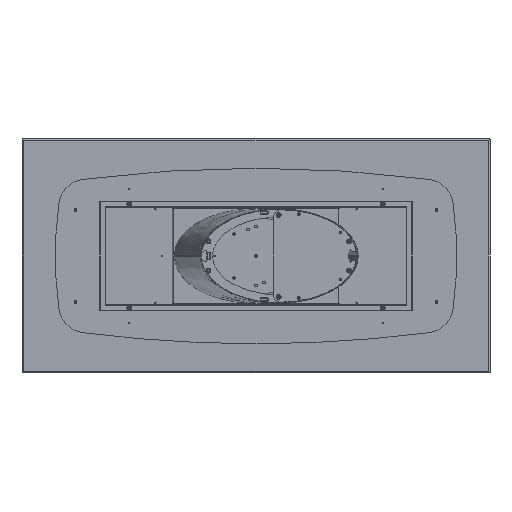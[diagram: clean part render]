
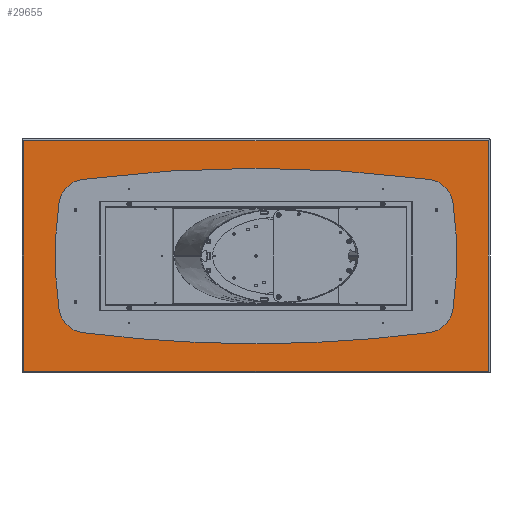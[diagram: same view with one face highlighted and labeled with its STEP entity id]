
A CAD part, front view. The second image highlights one B-rep face of the part: STEP entity #29655.
In plain terms, the highlighted planar face has unit normal (0, -1, 0).
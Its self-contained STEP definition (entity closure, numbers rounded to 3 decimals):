
#25 = EDGE_LOOP ( 'NONE', ( #11678, #25176, #18750, #23318 ) ) ;
#199 = CARTESIAN_POINT ( 'NONE',  ( -925., 0., 232.5 ) ) ;
#242 = VERTEX_POINT ( 'NONE', #10535 ) ;
#508 = CARTESIAN_POINT ( 'NONE',  ( 1190., 0., 0. ) ) ;
#1110 = DIRECTION ( 'NONE',  ( 0., 0., 1. ) ) ;
#1117 = VERTEX_POINT ( 'NONE', #24040 ) ;
#1432 = DIRECTION ( 'NONE',  ( 0., 0., -1. ) ) ;
#1446 = VERTEX_POINT ( 'NONE', #22483 ) ;
#2449 = VECTOR ( 'NONE', #9295, 1000. ) ;
#2654 = CARTESIAN_POINT ( 'NONE',  ( 925., 0., 235. ) ) ;
#2992 = DIRECTION ( 'NONE',  ( -1., 0., 0. ) ) ;
#3462 = PLANE ( 'NONE',  #23493 ) ;
#3490 = EDGE_CURVE ( 'NONE', #6345, #4444, #23983, .T. ) ;
#3587 = CIRCLE ( 'NONE', #12587, 2.5 ) ;
#3775 = DIRECTION ( 'NONE',  ( 0., -1., 0. ) ) ;
#3901 = CARTESIAN_POINT ( 'NONE',  ( -925., 0., 235. ) ) ;
#4150 = VERTEX_POINT ( 'NONE', #22175 ) ;
#4444 = VERTEX_POINT ( 'NONE', #27636 ) ;
#4484 = CARTESIAN_POINT ( 'NONE',  ( 925., 0., -232.5 ) ) ;
#4847 = LINE ( 'NONE', #16907, #30536 ) ;
#5180 = ORIENTED_EDGE ( 'NONE', *, *, #8284, .F. ) ;
#5347 = EDGE_CURVE ( 'NONE', #24655, #28126, #16317, .T. ) ;
#5363 = DIRECTION ( 'NONE',  ( 0., -1., 0. ) ) ;
#6345 = VERTEX_POINT ( 'NONE', #13315 ) ;
#6913 = VERTEX_POINT ( 'NONE', #4484 ) ;
#7002 = EDGE_LOOP ( 'NONE', ( #15483, #24650 ) ) ;
#7153 = CARTESIAN_POINT ( 'NONE',  ( -925., 0., -235. ) ) ;
#7165 = EDGE_LOOP ( 'NONE', ( #25930, #13620 ) ) ;
#7732 = CIRCLE ( 'NONE', #27702, 2.5 ) ;
#8284 = EDGE_CURVE ( 'NONE', #27258, #18948, #3587, .T. ) ;
#8445 = ORIENTED_EDGE ( 'NONE', *, *, #11965, .F. ) ;
#8791 = CARTESIAN_POINT ( 'NONE',  ( 925., 0., -235. ) ) ;
#9295 = DIRECTION ( 'NONE',  ( 1., 0., 0. ) ) ;
#9384 = DIRECTION ( 'NONE',  ( 0., 0., -1. ) ) ;
#9460 = CARTESIAN_POINT ( 'NONE',  ( 0., 0., -590. ) ) ;
#10535 = CARTESIAN_POINT ( 'NONE',  ( 925., 0., 232.5 ) ) ;
#10600 = CARTESIAN_POINT ( 'NONE',  ( -925., 0., -232.5 ) ) ;
#10624 = DIRECTION ( 'NONE',  ( 0., -1., 0. ) ) ;
#10673 = DIRECTION ( 'NONE',  ( 0., -1., 0. ) ) ;
#10952 = AXIS2_PLACEMENT_3D ( 'NONE', #24449, #5363, #15076 ) ;
#11119 = DIRECTION ( 'NONE',  ( 0., 1., 0. ) ) ;
#11461 = CIRCLE ( 'NONE', #10952, 2.5 ) ;
#11678 = ORIENTED_EDGE ( 'NONE', *, *, #30787, .T. ) ;
#11965 = EDGE_CURVE ( 'NONE', #6913, #28525, #26719, .T. ) ;
#12553 = CARTESIAN_POINT ( 'NONE',  ( -925., 0., -235. ) ) ;
#12587 = AXIS2_PLACEMENT_3D ( 'NONE', #12553, #17094, #29094 ) ;
#12926 = EDGE_LOOP ( 'NONE', ( #16482, #5180 ) ) ;
#13315 = CARTESIAN_POINT ( 'NONE',  ( 1190., 0., -590. ) ) ;
#13620 = ORIENTED_EDGE ( 'NONE', *, *, #5347, .F. ) ;
#13645 = CARTESIAN_POINT ( 'NONE',  ( -925., 0., 235. ) ) ;
#14261 = AXIS2_PLACEMENT_3D ( 'NONE', #8791, #10673, #27706 ) ;
#14431 = EDGE_CURVE ( 'NONE', #18948, #27258, #30236, .T. ) ;
#14932 = DIRECTION ( 'NONE',  ( 0., -1., 0. ) ) ;
#15006 = EDGE_CURVE ( 'NONE', #4444, #1446, #27230, .T. ) ;
#15076 = DIRECTION ( 'NONE',  ( 0., 0., -1. ) ) ;
#15087 = DIRECTION ( 'NONE',  ( 0., 0., -1. ) ) ;
#15340 = DIRECTION ( 'NONE',  ( 0., 0., -1. ) ) ;
#15416 = AXIS2_PLACEMENT_3D ( 'NONE', #23336, #3775, #1432 ) ;
#15483 = ORIENTED_EDGE ( 'NONE', *, *, #21454, .F. ) ;
#16008 = CARTESIAN_POINT ( 'NONE',  ( 925., 0., -237.5 ) ) ;
#16050 = ORIENTED_EDGE ( 'NONE', *, *, #28275, .F. ) ;
#16317 = CIRCLE ( 'NONE', #22737, 2.5 ) ;
#16482 = ORIENTED_EDGE ( 'NONE', *, *, #14431, .F. ) ;
#16783 = AXIS2_PLACEMENT_3D ( 'NONE', #7153, #14932, #15087 ) ;
#16907 = CARTESIAN_POINT ( 'NONE',  ( -1190., 0., 0. ) ) ;
#17094 = DIRECTION ( 'NONE',  ( 0., -1., 0. ) ) ;
#18166 = FACE_BOUND ( 'NONE', #7165, .T. ) ;
#18461 = AXIS2_PLACEMENT_3D ( 'NONE', #3901, #10624, #15340 ) ;
#18473 = FACE_BOUND ( 'NONE', #28331, .T. ) ;
#18593 = EDGE_CURVE ( 'NONE', #1117, #6345, #30865, .T. ) ;
#18750 = ORIENTED_EDGE ( 'NONE', *, *, #3490, .T. ) ;
#18948 = VERTEX_POINT ( 'NONE', #20697 ) ;
#19589 = DIRECTION ( 'NONE',  ( 0., 0., 1. ) ) ;
#19856 = EDGE_CURVE ( 'NONE', #28126, #24655, #21437, .T. ) ;
#20284 = VECTOR ( 'NONE', #2992, 1000. ) ;
#20697 = CARTESIAN_POINT ( 'NONE',  ( -925., 0., -237.5 ) ) ;
#21437 = CIRCLE ( 'NONE', #18461, 2.5 ) ;
#21454 = EDGE_CURVE ( 'NONE', #242, #4150, #7732, .T. ) ;
#21740 = DIRECTION ( 'NONE',  ( 0., -1., 0. ) ) ;
#21881 = VECTOR ( 'NONE', #19589, 1000. ) ;
#22078 = CARTESIAN_POINT ( 'NONE',  ( 0., 0., 590. ) ) ;
#22175 = CARTESIAN_POINT ( 'NONE',  ( 925., 0., 237.5 ) ) ;
#22373 = DIRECTION ( 'NONE',  ( 0., 0., -1. ) ) ;
#22483 = CARTESIAN_POINT ( 'NONE',  ( -1190., 0., 590. ) ) ;
#22737 = AXIS2_PLACEMENT_3D ( 'NONE', #13645, #23045, #29735 ) ;
#23045 = DIRECTION ( 'NONE',  ( 0., -1., 0. ) ) ;
#23318 = ORIENTED_EDGE ( 'NONE', *, *, #15006, .T. ) ;
#23336 = CARTESIAN_POINT ( 'NONE',  ( 925., 0., 235. ) ) ;
#23493 = AXIS2_PLACEMENT_3D ( 'NONE', #29870, #11119, #1110 ) ;
#23983 = LINE ( 'NONE', #508, #21881 ) ;
#24040 = CARTESIAN_POINT ( 'NONE',  ( -1190., 0., -590. ) ) ;
#24449 = CARTESIAN_POINT ( 'NONE',  ( 925., 0., -235. ) ) ;
#24650 = ORIENTED_EDGE ( 'NONE', *, *, #24778, .F. ) ;
#24655 = VERTEX_POINT ( 'NONE', #27094 ) ;
#24778 = EDGE_CURVE ( 'NONE', #4150, #242, #30844, .T. ) ;
#25043 = FACE_OUTER_BOUND ( 'NONE', #25, .T. ) ;
#25176 = ORIENTED_EDGE ( 'NONE', *, *, #18593, .T. ) ;
#25930 = ORIENTED_EDGE ( 'NONE', *, *, #19856, .F. ) ;
#26719 = CIRCLE ( 'NONE', #14261, 2.5 ) ;
#27094 = CARTESIAN_POINT ( 'NONE',  ( -925., 0., 237.5 ) ) ;
#27230 = LINE ( 'NONE', #22078, #20284 ) ;
#27258 = VERTEX_POINT ( 'NONE', #10600 ) ;
#27636 = CARTESIAN_POINT ( 'NONE',  ( 1190., 0., 590. ) ) ;
#27679 = FACE_BOUND ( 'NONE', #7002, .T. ) ;
#27702 = AXIS2_PLACEMENT_3D ( 'NONE', #2654, #21740, #22373 ) ;
#27706 = DIRECTION ( 'NONE',  ( 0., 0., -1. ) ) ;
#28126 = VERTEX_POINT ( 'NONE', #199 ) ;
#28275 = EDGE_CURVE ( 'NONE', #28525, #6913, #11461, .T. ) ;
#28331 = EDGE_LOOP ( 'NONE', ( #16050, #8445 ) ) ;
#28525 = VERTEX_POINT ( 'NONE', #16008 ) ;
#29094 = DIRECTION ( 'NONE',  ( 0., 0., -1. ) ) ;
#29655 = ADVANCED_FACE ( 'NONE', ( #18473, #30021, #18166, #27679, #25043 ), #3462, .F. ) ;
#29735 = DIRECTION ( 'NONE',  ( 0., 0., -1. ) ) ;
#29870 = CARTESIAN_POINT ( 'NONE',  ( 0., 0., 0. ) ) ;
#30021 = FACE_BOUND ( 'NONE', #12926, .T. ) ;
#30236 = CIRCLE ( 'NONE', #16783, 2.5 ) ;
#30536 = VECTOR ( 'NONE', #9384, 1000. ) ;
#30787 = EDGE_CURVE ( 'NONE', #1446, #1117, #4847, .T. ) ;
#30844 = CIRCLE ( 'NONE', #15416, 2.5 ) ;
#30865 = LINE ( 'NONE', #9460, #2449 ) ;
